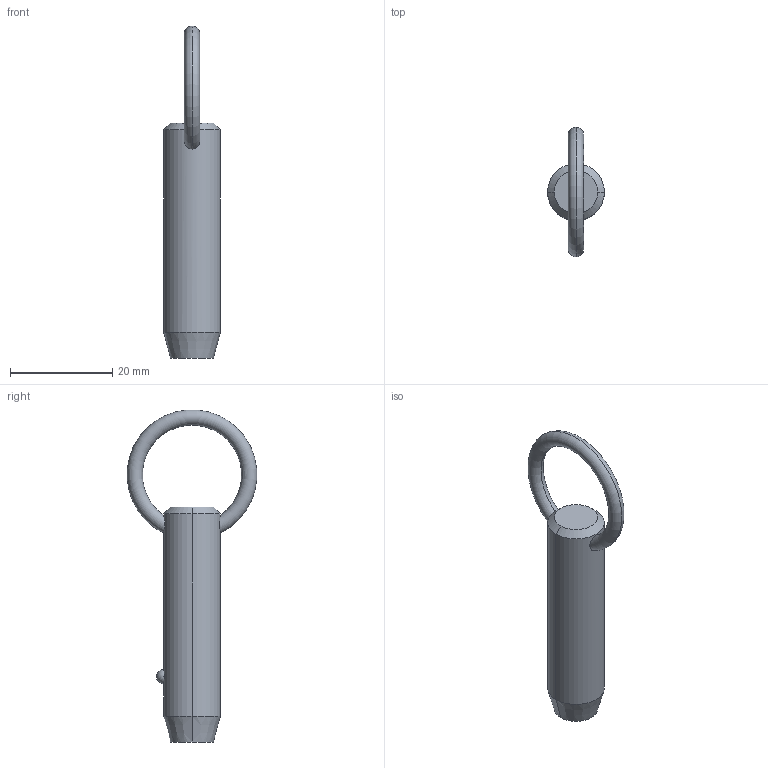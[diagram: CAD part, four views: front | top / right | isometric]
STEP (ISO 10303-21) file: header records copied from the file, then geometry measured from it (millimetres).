
FILE_DESCRIPTION (( 'STEP AP203' ), '1' );
FILE_NAME ('P1250.050-100.step', '2019-07-29T20:28:54', ( '' ), ( '' ), 'SwSTEP 2.0', 'SolidWorks 2017', '' );
FILE_SCHEMA (( 'CONFIG_CONTROL_DESIGN' ));
Length unit declared in the file: millimetre
Products named in the file (1): P1250.050-100
Bounding box: 11.1 x 25.32 x 64.95 mm (x, y, z)
Volume: 4734.1 mm3; surface area: 2256.7 mm2
Topology: 1 solids, 1 shells, 12 faces, 28 edges, 17 vertices
Faces by surface type: cone 4, torus 2, sphere 2, cylinder 2, plane 2
Entity records: 523 total; most frequent: CARTESIAN_POINT 190, DIRECTION 56, ORIENTED_EDGE 48, AXIS2_PLACEMENT_3D 25, EDGE_CURVE 24, EDGE_LOOP 15, VERTEX_POINT 15, CIRCLE 12
